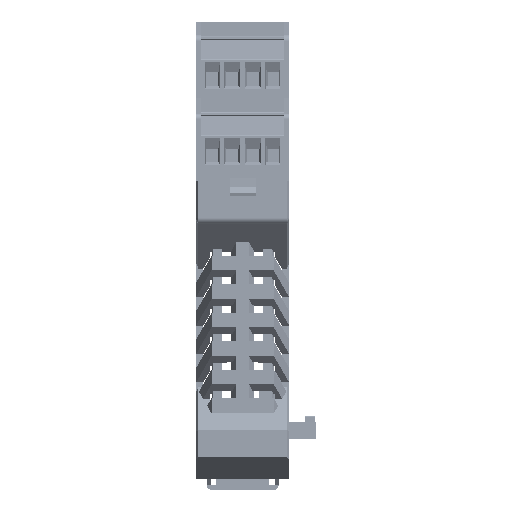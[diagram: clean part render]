
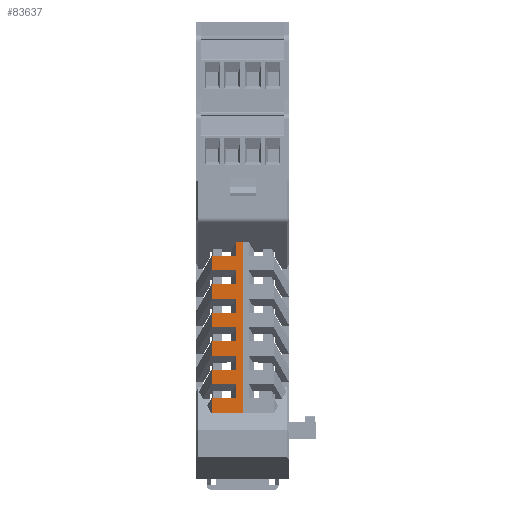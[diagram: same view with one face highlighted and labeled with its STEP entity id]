
A CAD part, front view. The second image highlights one B-rep face of the part: STEP entity #83637.
In plain terms, the highlighted planar face has unit normal (0, -1, 0) as drawn and (1, 0, 0) by its records, which use the part's own axes.
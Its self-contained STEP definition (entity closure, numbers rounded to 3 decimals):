
#83637=ADVANCED_FACE('',(#181475),#181477,.T.);
#181475=FACE_BOUND('',#181476,.T.);
#181476=EDGE_LOOP('',(#260011,#260012,#260013,#260014,#260015,#260016,#260017,#260018,
#260019,#260020,#260021,#260022,#260023,#260024,#260025,#260026,#260027,#260028,
#260029,#260030,#260031,#260032,#260033,#260034,#260035,#260036));
#181477=PLANE('',#181478);
#181478=AXIS2_PLACEMENT_3D('',#181479,#181480,#181481);
#181479=CARTESIAN_POINT('',(42.55,76.5,0.));
#181480=DIRECTION('',(1.,0.,0.));
#181481=DIRECTION('',(0.,0.,-1.));
#260011=ORIENTED_EDGE('',*,*,#307069,.F.);
#260012=ORIENTED_EDGE('',*,*,#307008,.F.);
#260013=ORIENTED_EDGE('',*,*,#307070,.F.);
#260014=ORIENTED_EDGE('',*,*,#307071,.T.);
#260015=ORIENTED_EDGE('',*,*,#306572,.T.);
#260016=ORIENTED_EDGE('',*,*,#307072,.F.);
#260017=ORIENTED_EDGE('',*,*,#306938,.F.);
#260018=ORIENTED_EDGE('',*,*,#307003,.F.);
#260019=ORIENTED_EDGE('',*,*,#306733,.F.);
#260020=ORIENTED_EDGE('',*,*,#307049,.T.);
#260021=ORIENTED_EDGE('',*,*,#307027,.F.);
#260022=ORIENTED_EDGE('',*,*,#307000,.F.);
#260023=ORIENTED_EDGE('',*,*,#307055,.F.);
#260024=ORIENTED_EDGE('',*,*,#307073,.T.);
#260025=ORIENTED_EDGE('',*,*,#307056,.T.);
#260026=ORIENTED_EDGE('',*,*,#307014,.F.);
#260027=ORIENTED_EDGE('',*,*,#307068,.T.);
#260028=ORIENTED_EDGE('',*,*,#307074,.T.);
#260029=ORIENTED_EDGE('',*,*,#307075,.T.);
#260030=ORIENTED_EDGE('',*,*,#307011,.F.);
#260031=ORIENTED_EDGE('',*,*,#306990,.T.);
#260032=ORIENTED_EDGE('',*,*,#307076,.F.);
#260033=ORIENTED_EDGE('',*,*,#306970,.T.);
#260034=ORIENTED_EDGE('',*,*,#307010,.F.);
#260035=ORIENTED_EDGE('',*,*,#306983,.T.);
#260036=ORIENTED_EDGE('',*,*,#307077,.T.);
#306572=EDGE_CURVE('',#359805,#359803,#359806,.T.);
#306733=EDGE_CURVE('',#360079,#360081,#360082,.T.);
#306938=EDGE_CURVE('',#360426,#360428,#360429,.T.);
#306970=EDGE_CURVE('',#360470,#360476,#360478,.T.);
#306983=EDGE_CURVE('',#360498,#360496,#360499,.T.);
#306990=EDGE_CURVE('',#360502,#360506,#360508,.T.);
#307000=EDGE_CURVE('',#360523,#360525,#360526,.T.);
#307003=EDGE_CURVE('',#360081,#360426,#360530,.T.);
#307008=EDGE_CURVE('',#360537,#360539,#360540,.T.);
#307010=EDGE_CURVE('',#360498,#360476,#360542,.T.);
#307011=EDGE_CURVE('',#360502,#360543,#360544,.T.);
#307014=EDGE_CURVE('',#360546,#360548,#360549,.T.);
#307027=EDGE_CURVE('',#360525,#360568,#360569,.T.);
#307049=EDGE_CURVE('',#360079,#360568,#360604,.T.);
#307055=EDGE_CURVE('',#360611,#360523,#360613,.T.);
#307056=EDGE_CURVE('',#360614,#360548,#360615,.T.);
#307068=EDGE_CURVE('',#360546,#360629,#360631,.T.);
#307069=EDGE_CURVE('',#360539,#360632,#360633,.T.);
#307070=EDGE_CURVE('',#360634,#360537,#360635,.T.);
#307071=EDGE_CURVE('',#360634,#359805,#360636,.T.);
#307072=EDGE_CURVE('',#360428,#359803,#360637,.T.);
#307073=EDGE_CURVE('',#360611,#360614,#360638,.T.);
#307074=EDGE_CURVE('',#360629,#360639,#360640,.T.);
#307075=EDGE_CURVE('',#360639,#360543,#360641,.T.);
#307076=EDGE_CURVE('',#360470,#360506,#360642,.T.);
#307077=EDGE_CURVE('',#360496,#360632,#360643,.T.);
#359803=VERTEX_POINT('',#479916);
#359805=VERTEX_POINT('',#479920);
#359806=LINE('',#479921,#479922);
#360079=VERTEX_POINT('',#480523);
#360081=VERTEX_POINT('',#480527);
#360082=LINE('',#480528,#480529);
#360426=VERTEX_POINT('',#481298);
#360428=VERTEX_POINT('',#481302);
#360429=LINE('',#481303,#481304);
#360470=VERTEX_POINT('',#481398);
#360476=VERTEX_POINT('',#481412);
#360478=LINE('',#481416,#481417);
#360496=VERTEX_POINT('',#481458);
#360498=VERTEX_POINT('',#481462);
#360499=LINE('',#481463,#481464);
#360502=VERTEX_POINT('',#481472);
#360506=VERTEX_POINT('',#481482);
#360508=LINE('',#481486,#481487);
#360523=VERTEX_POINT('',#481519);
#360525=VERTEX_POINT('',#481523);
#360526=LINE('',#481524,#481525);
#360530=LINE('',#481534,#481535);
#360537=VERTEX_POINT('',#481549);
#360539=VERTEX_POINT('',#481553);
#360540=LINE('',#481554,#481555);
#360542=LINE('',#481560,#481561);
#360543=VERTEX_POINT('',#481563);
#360544=LINE('',#481564,#481565);
#360546=VERTEX_POINT('',#481570);
#360548=VERTEX_POINT('',#481574);
#360549=LINE('',#481575,#481576);
#360568=VERTEX_POINT('',#481620);
#360569=LINE('',#481621,#481622);
#360604=LINE('',#481700,#481701);
#360611=VERTEX_POINT('',#481717);
#360613=LINE('',#481721,#481722);
#360614=VERTEX_POINT('',#481724);
#360615=LINE('',#481725,#481726);
#360629=VERTEX_POINT('',#481761);
#360631=LINE('',#481765,#481766);
#360632=VERTEX_POINT('',#481768);
#360633=LINE('',#481769,#481770);
#360634=VERTEX_POINT('',#481772);
#360635=LINE('',#481773,#481774);
#360636=LINE('',#481776,#481777);
#360637=LINE('',#481779,#481780);
#360638=LINE('',#481782,#481783);
#360639=VERTEX_POINT('',#481785);
#360640=LINE('',#481786,#481787);
#360641=LINE('',#481789,#481790);
#360642=LINE('',#481792,#481793);
#360643=LINE('',#481795,#481796);
#479916=CARTESIAN_POINT('',(42.55,20.,0.));
#479920=CARTESIAN_POINT('',(42.55,20.,7.547));
#479921=CARTESIAN_POINT('',(42.55,20.,7.547));
#479922=VECTOR('',#479923,1.);
#479923=DIRECTION('',(0.,0.,-1.));
#480523=CARTESIAN_POINT('',(42.55,58.2,7.547));
#480527=CARTESIAN_POINT('',(42.55,58.2,1.5));
#480528=CARTESIAN_POINT('',(42.55,58.2,7.547));
#480529=VECTOR('',#480530,1.);
#480530=DIRECTION('',(0.,0.,-1.));
#481298=CARTESIAN_POINT('',(42.55,61.6,1.5));
#481302=CARTESIAN_POINT('',(42.55,61.6,0.));
#481303=CARTESIAN_POINT('',(42.55,61.6,1.5));
#481304=VECTOR('',#481305,1.);
#481305=DIRECTION('',(0.,0.,-1.));
#481398=CARTESIAN_POINT('',(42.55,34.,7.547));
#481412=CARTESIAN_POINT('',(42.55,34.,1.5));
#481416=CARTESIAN_POINT('',(42.55,34.,7.547));
#481417=VECTOR('',#481418,1.);
#481418=DIRECTION('',(0.,0.,-1.));
#481458=CARTESIAN_POINT('',(42.55,30.6,7.547));
#481462=CARTESIAN_POINT('',(42.55,30.6,1.5));
#481463=CARTESIAN_POINT('',(42.55,30.6,1.5));
#481464=VECTOR('',#481465,1.);
#481465=DIRECTION('',(0.,0.,1.));
#481472=CARTESIAN_POINT('',(42.55,37.5,1.5));
#481482=CARTESIAN_POINT('',(42.55,37.5,7.547));
#481486=CARTESIAN_POINT('',(42.55,37.5,1.5));
#481487=VECTOR('',#481488,1.);
#481488=DIRECTION('',(0.,0.,1.));
#481519=CARTESIAN_POINT('',(42.55,51.3,1.5));
#481523=CARTESIAN_POINT('',(42.55,54.7,1.5));
#481524=CARTESIAN_POINT('',(42.55,51.3,1.5));
#481525=VECTOR('',#481526,1.);
#481526=DIRECTION('',(0.,1.,0.));
#481534=CARTESIAN_POINT('',(42.55,58.2,1.5));
#481535=VECTOR('',#481536,1.);
#481536=DIRECTION('',(0.,1.,0.));
#481549=CARTESIAN_POINT('',(42.55,23.7,1.5));
#481553=CARTESIAN_POINT('',(42.55,27.1,1.5));
#481554=CARTESIAN_POINT('',(42.55,23.7,1.5));
#481555=VECTOR('',#481556,1.);
#481556=DIRECTION('',(0.,1.,0.));
#481560=CARTESIAN_POINT('',(42.55,30.6,1.5));
#481561=VECTOR('',#481562,1.);
#481562=DIRECTION('',(0.,1.,0.));
#481563=CARTESIAN_POINT('',(42.55,40.9,1.5));
#481564=CARTESIAN_POINT('',(42.55,37.5,1.5));
#481565=VECTOR('',#481566,1.);
#481566=DIRECTION('',(0.,1.,0.));
#481570=CARTESIAN_POINT('',(42.55,44.4,1.5));
#481574=CARTESIAN_POINT('',(42.55,47.8,1.5));
#481575=CARTESIAN_POINT('',(42.55,44.4,1.5));
#481576=VECTOR('',#481577,1.);
#481577=DIRECTION('',(0.,1.,0.));
#481620=CARTESIAN_POINT('',(42.55,54.7,7.547));
#481621=CARTESIAN_POINT('',(42.55,54.7,1.5));
#481622=VECTOR('',#481623,1.);
#481623=DIRECTION('',(0.,0.,1.));
#481700=CARTESIAN_POINT('',(42.55,58.2,7.547));
#481701=VECTOR('',#481702,1.);
#481702=DIRECTION('',(0.,-1.,0.));
#481717=CARTESIAN_POINT('',(42.55,51.3,7.547));
#481721=CARTESIAN_POINT('',(42.55,51.3,7.547));
#481722=VECTOR('',#481723,1.);
#481723=DIRECTION('',(0.,0.,-1.));
#481724=CARTESIAN_POINT('',(42.55,47.8,7.547));
#481725=CARTESIAN_POINT('',(42.55,47.8,7.547));
#481726=VECTOR('',#481727,1.);
#481727=DIRECTION('',(0.,0.,-1.));
#481761=CARTESIAN_POINT('',(42.55,44.4,7.547));
#481765=CARTESIAN_POINT('',(42.55,44.4,1.5));
#481766=VECTOR('',#481767,1.);
#481767=DIRECTION('',(0.,0.,1.));
#481768=CARTESIAN_POINT('',(42.55,27.1,7.547));
#481769=CARTESIAN_POINT('',(42.55,27.1,1.5));
#481770=VECTOR('',#481771,1.);
#481771=DIRECTION('',(0.,0.,1.));
#481772=CARTESIAN_POINT('',(42.55,23.7,7.547));
#481773=CARTESIAN_POINT('',(42.55,23.7,7.547));
#481774=VECTOR('',#481775,1.);
#481775=DIRECTION('',(0.,0.,-1.));
#481776=CARTESIAN_POINT('',(42.55,23.7,7.547));
#481777=VECTOR('',#481778,1.);
#481778=DIRECTION('',(0.,-1.,0.));
#481779=CARTESIAN_POINT('',(42.55,61.6,0.));
#481780=VECTOR('',#481781,1.);
#481781=DIRECTION('',(0.,-1.,0.));
#481782=CARTESIAN_POINT('',(42.55,51.3,7.547));
#481783=VECTOR('',#481784,1.);
#481784=DIRECTION('',(0.,-1.,0.));
#481785=CARTESIAN_POINT('',(42.55,40.9,7.547));
#481786=CARTESIAN_POINT('',(42.55,44.4,7.547));
#481787=VECTOR('',#481788,1.);
#481788=DIRECTION('',(0.,-1.,0.));
#481789=CARTESIAN_POINT('',(42.55,40.9,7.547));
#481790=VECTOR('',#481791,1.);
#481791=DIRECTION('',(0.,0.,-1.));
#481792=CARTESIAN_POINT('',(42.55,34.,7.547));
#481793=VECTOR('',#481794,1.);
#481794=DIRECTION('',(0.,1.,0.));
#481795=CARTESIAN_POINT('',(42.55,30.6,7.547));
#481796=VECTOR('',#481797,1.);
#481797=DIRECTION('',(0.,-1.,0.));
